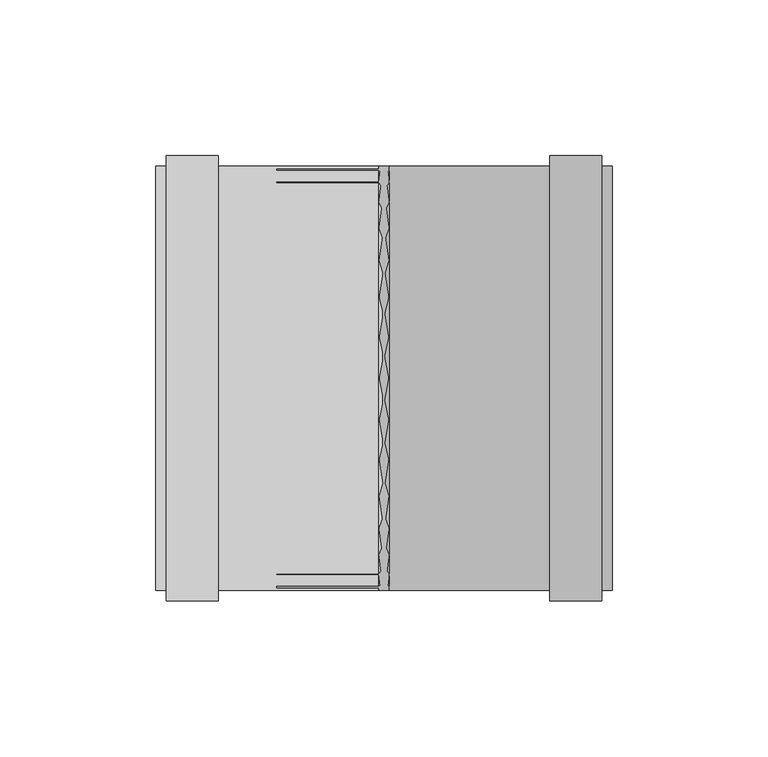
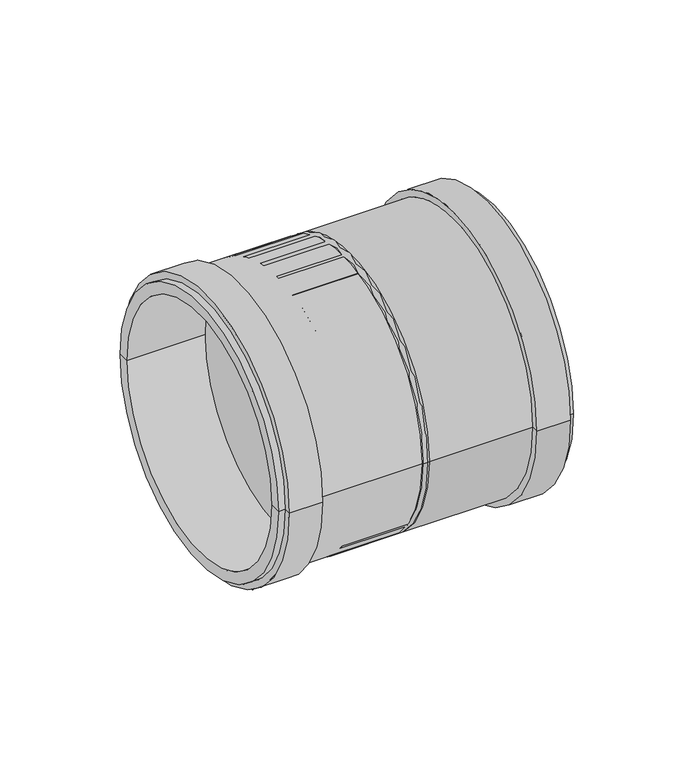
"""IFC4 building model written with IfcOpenShell, lengths in millimetres: pipe fitting geometry, pf_HTU : pf_HTU."""

from ifc_helpers import new_model, si_unit, point, frame, origin, origin_2d, place, context, project, spatial, polyline, circle_curve, trimmed, segment, composite_curve, outline, extrude, source, transform, mapped, element, save
from ifc_brep_helpers import plane_surface, cylinder_surface, revolved_surface, advanced_brep


def pipe_fitting_fd22e1d2(model_context):
    return source(origin(), model_context, "Body", "SolidModel", [
        advanced_brep(
        [(6.5, -62.5, 0.0), (6.5, 62.5, 0.0), (17.0, 68.1, 0.0), (17.0, -68.1, 0.0), (6.5, 0.0, 0.0), (88.5, -68.1, 0.0), (88.5, 68.1, 0.0), (88.5, 62.5, 0.0), (88.5, -62.5, 0.0), (85.1, -68.1, 0.0), (85.1, 68.1, 0.0), (85.1, -71.5, 0.0), (85.1, 71.5, 0.0), (68.5, -71.5, 0.0), (68.5, 71.5, 0.0), (68.5, -68.1, 0.0), (68.5, 68.1, 0.0), (17.0, -62.5, 0.0), (17.0, 62.5, 0.0), (17.0, 0.0, 0.0)],
        [
            (0, 1, circle_curve(frame((6.5, 0.0, 0.0), z_axis=(1.0, 0.0, 0.0), x_axis=(0.0, 1.0, 0.0)), 62.5)),
            (1, 2),
            (2, 3, circle_curve(frame((17.0, 0.0, 0.0), z_axis=(-1.0, 0.0, 0.0), x_axis=(0.0, 1.0, 0.0)), 68.1)),
            (3, 0),
            (1, 0, circle_curve(frame((6.5, 0.0, 0.0), z_axis=(1.0, 0.0, 0.0), x_axis=(0.0, 1.0, 0.0)), 62.5)),
            (3, 2, circle_curve(frame((17.0, 0.0, 0.0), z_axis=(-1.0, 0.0, 0.0), x_axis=(0.0, 1.0, 0.0)), 68.1)),
            (4, 1),
            (0, 4),
            (5, 6, circle_curve(frame((88.5, 0.0, 0.0), z_axis=(1.0, 0.0, 0.0), x_axis=(0.0, 1.0, 0.0)), 68.1)),
            (6, 7),
            (7, 8, circle_curve(frame((88.5, 0.0, 0.0), z_axis=(-1.0, 0.0, 0.0), x_axis=(0.0, 1.0, 0.0)), 62.5)),
            (8, 5),
            (6, 5, circle_curve(frame((88.5, 0.0, 0.0), z_axis=(1.0, 0.0, 0.0), x_axis=(0.0, 1.0, 0.0)), 68.1)),
            (8, 7, circle_curve(frame((88.5, 0.0, 0.0), z_axis=(-1.0, 0.0, 0.0), x_axis=(0.0, 1.0, 0.0)), 62.5)),
            (9, 10, circle_curve(frame((85.1, 0.0, 0.0), z_axis=(1.0, 0.0, 0.0), x_axis=(0.0, 1.0, 0.0)), 68.1)),
            (10, 6),
            (5, 9),
            (10, 9, circle_curve(frame((85.1, 0.0, 0.0), z_axis=(1.0, 0.0, 0.0), x_axis=(0.0, 1.0, 0.0)), 68.1)),
            (11, 12, circle_curve(frame((85.1, 0.0, 0.0), z_axis=(1.0, 0.0, 0.0), x_axis=(0.0, 1.0, 0.0)), 71.5)),
            (12, 10),
            (9, 11),
            (12, 11, circle_curve(frame((85.1, 0.0, 0.0), z_axis=(1.0, 0.0, 0.0), x_axis=(0.0, 1.0, 0.0)), 71.5)),
            (13, 14, circle_curve(frame((68.5, 0.0, 0.0), z_axis=(1.0, 0.0, 0.0), x_axis=(0.0, 1.0, 0.0)), 71.5)),
            (14, 12),
            (11, 13),
            (14, 13, circle_curve(frame((68.5, 0.0, 0.0), z_axis=(1.0, 0.0, 0.0), x_axis=(0.0, 1.0, 0.0)), 71.5)),
            (15, 16, circle_curve(frame((68.5, 0.0, 0.0), z_axis=(1.0, 0.0, 0.0), x_axis=(0.0, 1.0, 0.0)), 68.1)),
            (16, 14),
            (13, 15),
            (16, 15, circle_curve(frame((68.5, 0.0, 0.0), z_axis=(1.0, 0.0, 0.0), x_axis=(0.0, 1.0, 0.0)), 68.1)),
            (2, 16),
            (15, 3),
            (17, 18, circle_curve(frame((17.0, 0.0, 0.0), z_axis=(1.0, 0.0, 0.0), x_axis=(0.0, 1.0, 0.0)), 62.5)),
            (18, 19),
            (19, 17),
            (18, 17, circle_curve(frame((17.0, 0.0, 0.0), z_axis=(1.0, 0.0, 0.0), x_axis=(0.0, 1.0, 0.0)), 62.5)),
            (7, 18),
            (17, 8),
        ],
        [
            revolved_surface(polyline([(17.0, 68.1, 0.0), (6.5, 62.5, 0.0)]), (6.5, 0.0, 0.0), (-1.0, 0.0, 0.0)),
            plane_surface(frame((6.5, 0.0, 0.0), z_axis=(-1.0, 0.0, 0.0), x_axis=(0.0, 1.0, 0.0))),
            plane_surface(frame((88.5, 0.0, 0.0), z_axis=(1.0, 0.0, 0.0), x_axis=(0.0, 1.0, 0.0))),
            cylinder_surface(frame((6.5, 0.0, 0.0), z_axis=(-1.0, 0.0, 0.0), x_axis=(0.0, 1.0, 0.0)), 68.1),
            plane_surface(frame((85.1, 0.0, 0.0), z_axis=(1.0, 0.0, 0.0), x_axis=(0.0, 1.0, 0.0))),
            cylinder_surface(frame((6.5, 0.0, 0.0), z_axis=(-1.0, 0.0, 0.0), x_axis=(0.0, 1.0, 0.0)), 71.5),
            plane_surface(frame((68.5, 0.0, 0.0), z_axis=(-1.0, 0.0, 0.0), x_axis=(0.0, 1.0, 0.0))),
            plane_surface(frame((17.0, 0.0, 0.0), z_axis=(1.0, 0.0, 0.0), x_axis=(0.0, 1.0, 0.0))),
            revolved_surface(polyline([(17.0, 62.5, 0.0), (88.5, 62.5, 0.0)]), (6.5, 0.0, 0.0), (-1.0, 0.0, 0.0)),
        ],
        [
            (0, [[1, 2, 3, 4]]),
            (0, [[5, -4, 6, -2]]),
            (1, [[7, -1, 8]]),
            (1, [[-8, -5, -7]]),
            (2, [[9, 10, 11, 12]]),
            (2, [[13, -12, 14, -10]]),
            (3, [[15, 16, -9, 17]]),
            (3, [[18, -17, -13, -16]]),
            (4, [[19, 20, -15, 21]]),
            (4, [[22, -21, -18, -20]]),
            (5, [[23, 24, -19, 25]]),
            (5, [[26, -25, -22, -24]]),
            (6, [[27, 28, -23, 29]]),
            (6, [[30, -29, -26, -28]]),
            (3, [[-3, 31, -27, 32]]),
            (3, [[-6, -32, -30, -31]]),
            (7, [[33, 34, 35]]),
            (7, [[36, -35, -34]]),
            (8, [[-11, 37, -33, 38]]),
            (8, [[-14, -38, -36, -37]]),
        ],
    ),
        advanced_brep(
        [(24.0, 62.5, 0.0), (24.0, -62.5, 0.0), (13.5, -68.1, 0.0), (13.5, 68.1, 0.0), (24.0, 0.0, 0.0), (-58.0, 68.1, 0.0), (-58.0, -68.1, 0.0), (-58.0, -62.5, 0.0), (-58.0, 62.5, 0.0), (-54.6, 68.1, 0.0), (-54.6, -68.1, 0.0), (-54.6, 71.5, 0.0), (-54.6, -71.5, 0.0), (-38.0, 71.5, 0.0), (-38.0, -71.5, 0.0), (-38.0, 68.1, 0.0), (-38.0, -68.1, 0.0), (13.5, 62.5, 0.0), (13.5, -62.5, 0.0), (13.5, 0.0, 0.0)],
        [
            (0, 1, circle_curve(frame((24.0, 0.0, 0.0), z_axis=(-1.0, 0.0, 0.0), x_axis=(0.0, -1.0, 0.0)), 62.5)),
            (1, 2),
            (2, 3, circle_curve(frame((13.5, 0.0, 0.0), z_axis=(1.0, 0.0, 0.0), x_axis=(0.0, -1.0, 0.0)), 68.1)),
            (3, 0),
            (1, 0, circle_curve(frame((24.0, 0.0, 0.0), z_axis=(-1.0, 0.0, 0.0), x_axis=(0.0, -1.0, 0.0)), 62.5)),
            (3, 2, circle_curve(frame((13.5, 0.0, 0.0), z_axis=(1.0, 0.0, 0.0), x_axis=(0.0, -1.0, 0.0)), 68.1)),
            (4, 1),
            (0, 4),
            (5, 6, circle_curve(frame((-58.0, 0.0, 0.0), z_axis=(-1.0, 0.0, 0.0), x_axis=(0.0, -1.0, 0.0)), 68.1)),
            (6, 7),
            (7, 8, circle_curve(frame((-58.0, 0.0, 0.0), z_axis=(1.0, 0.0, 0.0), x_axis=(0.0, -1.0, 0.0)), 62.5)),
            (8, 5),
            (6, 5, circle_curve(frame((-58.0, 0.0, 0.0), z_axis=(-1.0, 0.0, 0.0), x_axis=(0.0, -1.0, 0.0)), 68.1)),
            (8, 7, circle_curve(frame((-58.0, 0.0, 0.0), z_axis=(1.0, 0.0, 0.0), x_axis=(0.0, -1.0, 0.0)), 62.5)),
            (9, 10, circle_curve(frame((-54.6, 0.0, 0.0), z_axis=(-1.0, 0.0, 0.0), x_axis=(0.0, -1.0, 0.0)), 68.1)),
            (10, 6),
            (5, 9),
            (10, 9, circle_curve(frame((-54.6, 0.0, 0.0), z_axis=(-1.0, 0.0, 0.0), x_axis=(0.0, -1.0, 0.0)), 68.1)),
            (11, 12, circle_curve(frame((-54.6, 0.0, 0.0), z_axis=(-1.0, 0.0, 0.0), x_axis=(0.0, -1.0, 0.0)), 71.5)),
            (12, 10),
            (9, 11),
            (12, 11, circle_curve(frame((-54.6, 0.0, 0.0), z_axis=(-1.0, 0.0, 0.0), x_axis=(0.0, -1.0, 0.0)), 71.5)),
            (13, 14, circle_curve(frame((-38.0, 0.0, 0.0), z_axis=(-1.0, 0.0, 0.0), x_axis=(0.0, -1.0, 0.0)), 71.5)),
            (14, 12),
            (11, 13),
            (14, 13, circle_curve(frame((-38.0, 0.0, 0.0), z_axis=(-1.0, 0.0, 0.0), x_axis=(0.0, -1.0, 0.0)), 71.5)),
            (15, 16, circle_curve(frame((-38.0, 0.0, 0.0), z_axis=(-1.0, 0.0, 0.0), x_axis=(0.0, -1.0, 0.0)), 68.1)),
            (16, 14),
            (13, 15),
            (16, 15, circle_curve(frame((-38.0, 0.0, 0.0), z_axis=(-1.0, 0.0, 0.0), x_axis=(0.0, -1.0, 0.0)), 68.1)),
            (2, 16),
            (15, 3),
            (17, 18, circle_curve(frame((13.5, 0.0, 0.0), z_axis=(-1.0, 0.0, 0.0), x_axis=(0.0, -1.0, 0.0)), 62.5)),
            (18, 19),
            (19, 17),
            (18, 17, circle_curve(frame((13.5, 0.0, 0.0), z_axis=(-1.0, 0.0, 0.0), x_axis=(0.0, -1.0, 0.0)), 62.5)),
            (7, 18),
            (17, 8),
        ],
        [
            revolved_surface(polyline([(13.5, -68.1, 0.0), (24.0, -62.5, 0.0)]), (24.0, 0.0, 0.0), (1.0, 0.0, 0.0)),
            plane_surface(frame((24.0, 0.0, 0.0), z_axis=(1.0, 0.0, 0.0), x_axis=(0.0, -1.0, 0.0))),
            plane_surface(frame((-58.0, 0.0, 0.0), z_axis=(-1.0, 0.0, 0.0), x_axis=(0.0, -1.0, 0.0))),
            cylinder_surface(frame((24.0, 0.0, 0.0), z_axis=(1.0, 0.0, 0.0), x_axis=(0.0, -1.0, 0.0)), 68.1),
            plane_surface(frame((-54.6, 0.0, 0.0), z_axis=(-1.0, 0.0, 0.0), x_axis=(0.0, -1.0, 0.0))),
            cylinder_surface(frame((24.0, 0.0, 0.0), z_axis=(1.0, 0.0, 0.0), x_axis=(0.0, -1.0, 0.0)), 71.5),
            plane_surface(frame((-38.0, 0.0, 0.0), z_axis=(1.0, 0.0, 0.0), x_axis=(0.0, -1.0, 0.0))),
            plane_surface(frame((13.5, 0.0, 0.0), z_axis=(-1.0, 0.0, 0.0), x_axis=(0.0, -1.0, 0.0))),
            revolved_surface(polyline([(13.5, -62.5, 0.0), (-58.0, -62.5, 0.0)]), (24.0, 0.0, 0.0), (1.0, 0.0, 0.0)),
        ],
        [
            (0, [[1, 2, 3, 4]]),
            (0, [[5, -4, 6, -2]]),
            (1, [[7, -1, 8]]),
            (1, [[-8, -5, -7]]),
            (2, [[9, 10, 11, 12]]),
            (2, [[13, -12, 14, -10]]),
            (3, [[15, 16, -9, 17]]),
            (3, [[18, -17, -13, -16]]),
            (4, [[19, 20, -15, 21]]),
            (4, [[22, -21, -18, -20]]),
            (5, [[23, 24, -19, 25]]),
            (5, [[26, -25, -22, -24]]),
            (6, [[27, 28, -23, 29]]),
            (6, [[30, -29, -26, -28]]),
            (3, [[-3, 31, -27, 32]]),
            (3, [[-6, -32, -30, -31]]),
            (7, [[33, 34, 35]]),
            (7, [[36, -35, -34]]),
            (8, [[-11, 37, -33, 38]]),
            (8, [[-14, -38, -36, -37]]),
        ],
    ),
        extrude(outline(composite_curve([segment(trimmed(circle_curve(origin_2d(), 68.1), [point((-68.1, 0.0))], [point((68.1, 0.0))], False, "CARTESIAN"), True, "CONTINUOUS"), segment(trimmed(circle_curve(origin_2d(), 68.1), [point((68.1, 0.0))], [point((-68.1, 0.0))], False, "CARTESIAN"), True, "CONTINUOUS")], self_intersect=False)), frame((-19.2389226, 0.0, 0.0), z_axis=(1.0, 0.0, 0.0), x_axis=(0.0, 1.0, 0.0)), (0.0, 0.0, 1.0), 38.4778452),
    ])


if __name__ == "__main__":
    model = new_model("IFC4")
    model_context = context("Model", 3, world=origin())
    ifc_project = project(units=[si_unit("LENGTHUNIT", "METRE", prefix="MILLI")], contexts=[model_context])
    site = spatial("IfcSite", under=ifc_project)
    building = spatial("IfcBuilding", under=site)
    placement = place(None, origin())
    pipe_fitting_shape = pipe_fitting_fd22e1d2(model_context)
    element("IfcPipeFitting", 1, ObjectType="pf_HTU : pf_HTU", at=placement, inside=building, context=model_context, shape_type="MappedRepresentation", body=[
        mapped(pipe_fitting_shape, transform((0.0, 0.0, 0.0), x_axis=(1.0, 0.0, 0.0), y_axis=(0.0, 1.0, 0.0), z_axis=(0.0, 0.0, 1.0))),
    ])
    save(model, "model.ifc")
